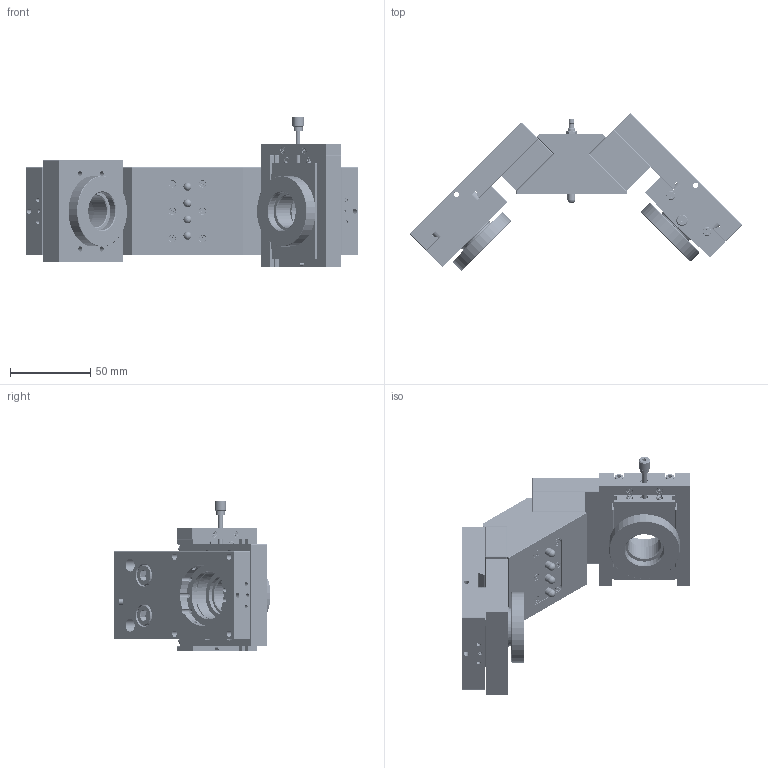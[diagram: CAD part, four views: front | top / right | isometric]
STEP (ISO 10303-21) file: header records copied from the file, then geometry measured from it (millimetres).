
FILE_DESCRIPTION (( 'STEP AP214' ), '1' );
FILE_NAME ('RAO-ADJ-F-K1 with RAO-ADJ-06 & RAO-ADJ-10 (CATALOG MODEL).STEP', '2026-08-21T19:19:47', ( '' ), ( '' ), 'SwSTEP 2.0', 'SolidWorks 2025', '' );
FILE_SCHEMA (( 'AUTOMOTIVE_DESIGN' ));
Length unit declared in the file: inch
Products named in the file (1): RAO-ADJ-F-K1 with RAO-ADJ-06 & RAO-ADJ-10 (CATALOG MODEL)
Bounding box: 206.75 x 97.75 x 93.83 mm (x, y, z)
Volume: 360364.5 mm3; surface area: 149219.1 mm2
Topology: 99 solids, 99 shells, 4187 faces, 10834 edges, 6800 vertices
Faces by surface type: cylinder 2260, plane 1008, cone 717, bspline 162, torus 22, sphere 18
Entity records: 212596 total; most frequent: CARTESIAN_POINT 99779, ORIENTED_EDGE 21308, DIRECTION 17051, EDGE_CURVE 10654, VERTEX_POINT 6780, AXIS2_PLACEMENT_3D 6344, EDGE_LOOP 4524, LINE 4363
